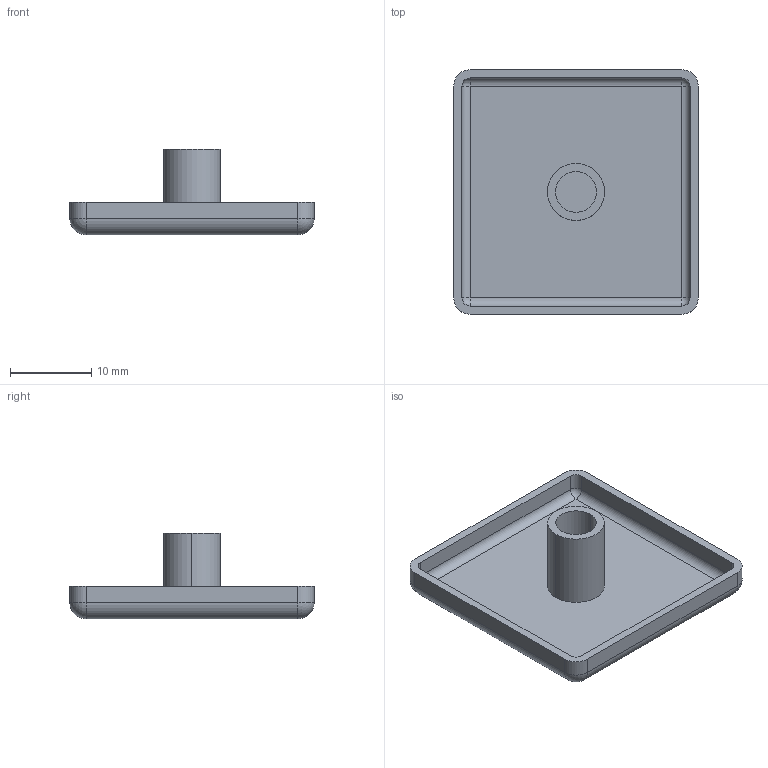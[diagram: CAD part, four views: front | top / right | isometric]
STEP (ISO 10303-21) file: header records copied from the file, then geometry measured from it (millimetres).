
FILE_DESCRIPTION (( 'STEP AP203' ), '1' );
FILE_NAME ('165-CE-CP-3030.STEP', '2015-07-09T09:12:13', ( '' ), ( '' ), 'SwSTEP 2.0', 'SolidWorks 2013', '' );
FILE_SCHEMA (( 'CONFIG_CONTROL_DESIGN' ));
Length unit declared in the file: millimetre
Products named in the file (1): 165-CE-CP-3030
Bounding box: 30 x 30 x 10.5 mm (x, y, z)
Volume: 1341.6 mm3; surface area: 2798.8 mm2
Topology: 1 solids, 1 shells, 41 faces, 92 edges, 48 vertices
Faces by surface type: cylinder 20, plane 13, sphere 8
Entity records: 1143 total; most frequent: DIRECTION 208, CARTESIAN_POINT 174, ORIENTED_EDGE 168, EDGE_CURVE 84, AXIS2_PLACEMENT_3D 82, VERTEX_POINT 48, EDGE_LOOP 44, LINE 44
